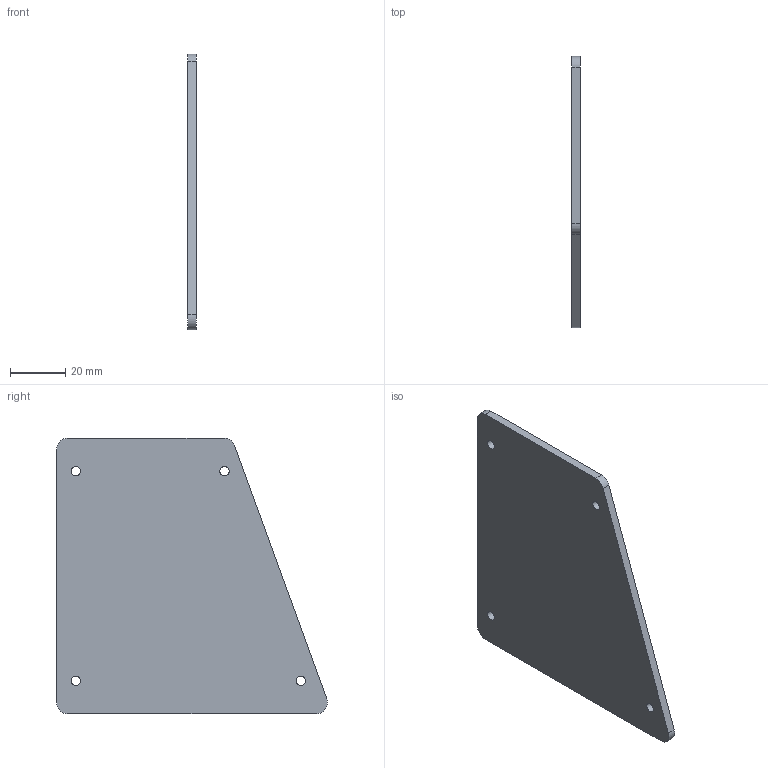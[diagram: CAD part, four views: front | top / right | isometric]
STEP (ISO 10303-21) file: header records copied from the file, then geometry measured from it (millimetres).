
FILE_DESCRIPTION(('Open CASCADE Model'),'2;1');
FILE_NAME('Open CASCADE Shape Model','2026-10-07T20:49:38',('Author'),( 'Open CASCADE'),'Open CASCADE STEP processor 7.9','Open CASCADE 7.9' ,'Unknown');
FILE_SCHEMA(('AUTOMOTIVE_DESIGN { 1 0 10303 214 1 1 1 1 }'));
Length unit declared in the file: millimetre
Products named in the file (1): Open CASCADE STEP translator 7.9 4
Bounding box: 3 x 98.29 x 100 mm (x, y, z)
Volume: 24384.1 mm3; surface area: 17470.6 mm2
Topology: 1 solids, 1 shells, 14 faces, 36 edges, 24 vertices
Faces by surface type: cylinder 8, plane 6
Full cylindrical faces by diameter (mm): 3.4 x4
Entity records: 960 total; most frequent: CARTESIAN_POINT 207, DIRECTION 144, LINE 76, VECTOR 76, ORIENTED_EDGE 72, PCURVE 72, DEFINITIONAL_REPRESENTATION 72, EDGE_CURVE 36
